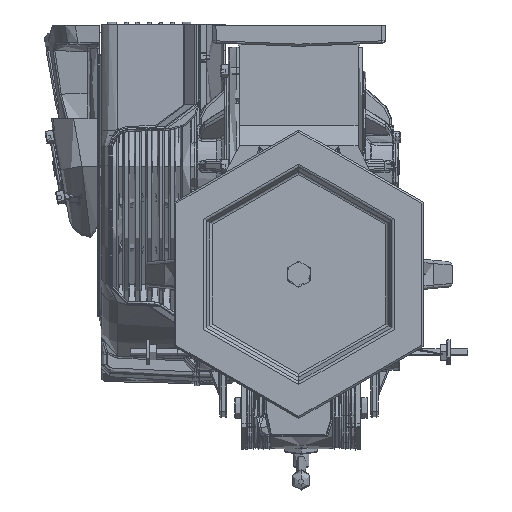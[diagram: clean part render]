
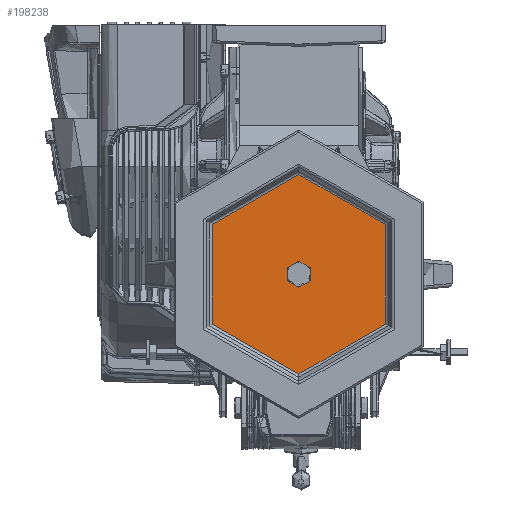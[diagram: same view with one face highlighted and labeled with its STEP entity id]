
A CAD part, front view. The second image highlights one B-rep face of the part: STEP entity #198238.
In plain terms, the highlighted planar face has unit normal (0, -1, 0).
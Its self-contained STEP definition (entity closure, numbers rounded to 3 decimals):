
#12925 = EDGE_CURVE ( 'NONE', #160722, #278279, #13796, .T. ) ;
#13796 = CIRCLE ( 'NONE', #208885, 138.453 ) ;
#17622 = FACE_BOUND ( 'NONE', #60905, .T. ) ;
#23104 = AXIS2_PLACEMENT_3D ( 'NONE', #178341, #60287, #149257 ) ;
#24644 = CARTESIAN_POINT ( 'NONE',  ( 82.358, -512.923, -42.545 ) ) ;
#46578 = DIRECTION ( 'NONE',  ( 0., -1., 0. ) ) ;
#60287 = DIRECTION ( 'NONE',  ( 0., -1., 0. ) ) ;
#60905 = EDGE_LOOP ( 'NONE', ( #102500, #175203 ) ) ;
#63548 = CARTESIAN_POINT ( 'NONE',  ( 82.358, -512.923, -24.434 ) ) ;
#67701 = DIRECTION ( 'NONE',  ( 0., 0., -1. ) ) ;
#96667 = AXIS2_PLACEMENT_3D ( 'NONE', #97723, #123750, #234251 ) ;
#97723 = CARTESIAN_POINT ( 'NONE',  ( 82.358, -512.923, -24.434 ) ) ;
#102233 = AXIS2_PLACEMENT_3D ( 'NONE', #63548, #109556, #246041 ) ;
#102500 = ORIENTED_EDGE ( 'NONE', *, *, #170971, .F. ) ;
#109556 = DIRECTION ( 'NONE',  ( 0., -1., 0. ) ) ;
#113685 = DIRECTION ( 'NONE',  ( 0., -1., 0. ) ) ;
#123750 = DIRECTION ( 'NONE',  ( 0., -1., 0. ) ) ;
#140730 = VERTEX_POINT ( 'NONE', #24644 ) ;
#149257 = DIRECTION ( 'NONE',  ( 0., 0., -1. ) ) ;
#155205 = CIRCLE ( 'NONE', #23104, 18.111 ) ;
#160722 = VERTEX_POINT ( 'NONE', #251844 ) ;
#166475 = CARTESIAN_POINT ( 'NONE',  ( 82.358, -512.923, -6.323 ) ) ;
#170971 = EDGE_CURVE ( 'NONE', #186327, #140730, #184900, .T. ) ;
#175203 = ORIENTED_EDGE ( 'NONE', *, *, #180206, .F. ) ;
#178341 = CARTESIAN_POINT ( 'NONE',  ( 82.358, -512.923, -24.434 ) ) ;
#180206 = EDGE_CURVE ( 'NONE', #140730, #186327, #155205, .T. ) ;
#184209 = CARTESIAN_POINT ( 'NONE',  ( 82.358, -512.923, -24.434 ) ) ;
#184900 = CIRCLE ( 'NONE', #96667, 18.111 ) ;
#186080 = FACE_OUTER_BOUND ( 'NONE', #259106, .T. ) ;
#186327 = VERTEX_POINT ( 'NONE', #166475 ) ;
#189501 = CARTESIAN_POINT ( 'NONE',  ( 82.358, -512.923, 114.019 ) ) ;
#198238 = ADVANCED_FACE ( 'NONE', ( #186080, #17622 ), #227534, .T. ) ;
#208885 = AXIS2_PLACEMENT_3D ( 'NONE', #184209, #113685, #67701 ) ;
#221793 = AXIS2_PLACEMENT_3D ( 'NONE', #256563, #46578, #278016 ) ;
#227534 = PLANE ( 'NONE',  #221793 ) ;
#234251 = DIRECTION ( 'NONE',  ( 0., 0., -1. ) ) ;
#234454 = CIRCLE ( 'NONE', #102233, 138.453 ) ;
#246041 = DIRECTION ( 'NONE',  ( 0., 0., -1. ) ) ;
#251844 = CARTESIAN_POINT ( 'NONE',  ( 82.358, -512.923, -162.887 ) ) ;
#253223 = ORIENTED_EDGE ( 'NONE', *, *, #12925, .T. ) ;
#256563 = CARTESIAN_POINT ( 'NONE',  ( 220.811, -512.923, -24.434 ) ) ;
#259106 = EDGE_LOOP ( 'NONE', ( #253223, #261707 ) ) ;
#261707 = ORIENTED_EDGE ( 'NONE', *, *, #278456, .T. ) ;
#278016 = DIRECTION ( 'NONE',  ( 0., 0., -1. ) ) ;
#278279 = VERTEX_POINT ( 'NONE', #189501 ) ;
#278456 = EDGE_CURVE ( 'NONE', #278279, #160722, #234454, .T. ) ;
